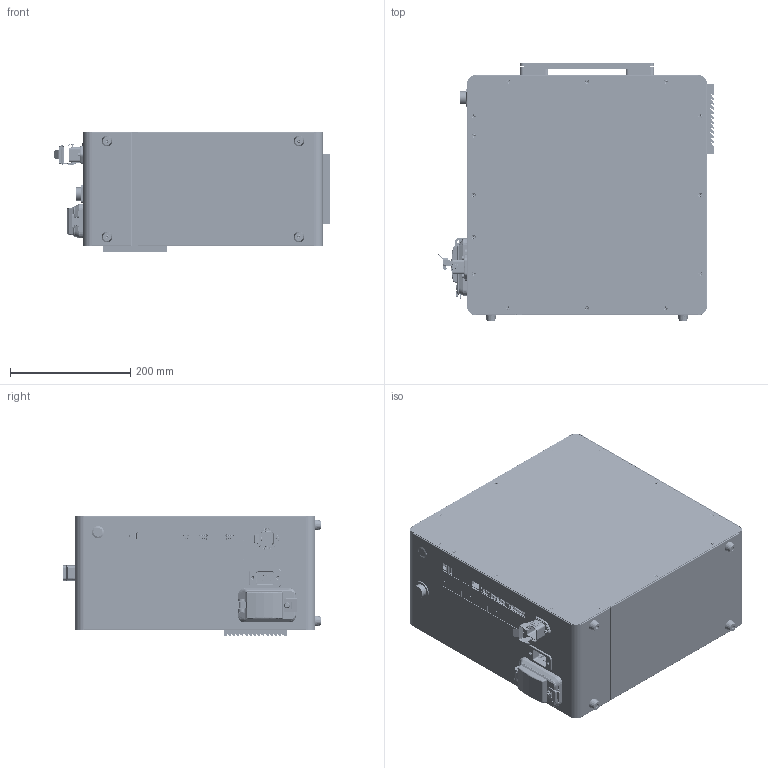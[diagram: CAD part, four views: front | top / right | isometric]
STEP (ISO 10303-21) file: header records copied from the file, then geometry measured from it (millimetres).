
FILE_DESCRIPTION((''),'2;1');
FILE_NAME('00000_ASM_ASM','2025-07-04T11:09:16',('Dobot'),(''),'CREO PARAMETRIC BY PTC INC, 2024153','CREO PARAMETRIC BY PTC INC, 2024153','');
FILE_SCHEMA(('AP242_MANAGED_MODEL_BASED_3D_ENGINEERING_MIM_LF { 1 0 10303 442 1 1 4 }'));
Products named in the file (2137): 00_37_1; 00_37_2; 00_37_3; 00_37_4; 00_37_5; 00_37_6; 00_37_7; 00_37_8; 00_37_9; 00_37_10; 00_37_11; 00_37_12; 00_37_13; 00_37_14; 00_37_15; 00_37_16; 00_37_17; 00_37_18; 00_37_19; 00_37_ASM; 200_12_1_2_1; 200_12_1_2_2; 200_12_1_2_3; 200_12_1_2_4; 200_12_1_2_5; 200_12_1_2_ASM; 0002_90_1; 0002_90_2; 0002_90_3; 0002_90_4; 0002_90_5; 0002_90_6; 0002_90_7; 0002_90_8; 0002_90_9; 0002_90_10; 0002_90_11; 0002_90_12; 0002_90_13; 0002_90_14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
Assembly tree (2194 placements, depth 10):
  00000_ASM_ASM
    00000_ASM_111_ASM
      3204001960_ASM_87_ASM
        00_37_ASM
          00_37_1
          00_37_2
          00_37_3
          00_37_4
          00_37_5
          00_37_6
          00_37_7
          00_37_8
          00_37_9
          00_37_10
          00_37_11
          00_37_12
          00_37_13
          00_37_14
          00_37_15
          00_37_16
          00_37_17
          00_37_18
          00_37_19
        200_12_1_2_ASM
          200_12_1_2_1
          200_12_1_2_2
          200_12_1_2_3
          200_12_1_2_4
          200_12_1_2_5
        0002_90_ASM
          0002_90_1
          0002_90_2
          0002_90_3
          0002_90_4
          0002_90_5
          0002_90_6
          0002_90_7
          0002_90_8
          0002_90_9
          0002_90_10
          0002_90_11
          0002_90_12
          0002_90_13
          0002_90_14
          0002_90_15
          0002_90_16
          0002_90_17
          0002_90_18
          0002_90_19
          0002_90_20
          0002_90_21
          0002_90_22
          0002_90_23
          0002_90_24
          0002_90_25
          0002_90_26
          0002_90_27
          0002_90_28
          0002_90_29
          0002_90_30
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Bounding box: 458.57 x 430.5 x 200 mm (x, y, z)
Volume: 1734834.4 mm3; surface area: 2085656.5 mm2
Topology: 192 solids, 278 shells, 9651 faces, 24896 edges, 15696 vertices
Faces by surface type: plane 5799, cylinder 2878, cone 580, torus 236, bspline 138, sphere 20
Entity records: 345258 total; most frequent: CARTESIAN_POINT 67475, DIRECTION 52990, ORIENTED_EDGE 42008, EDGE_CURVE 21004, AXIS2_PLACEMENT_3D 19512, VECTOR 13966, LINE 13966, VERTEX_POINT 13308
